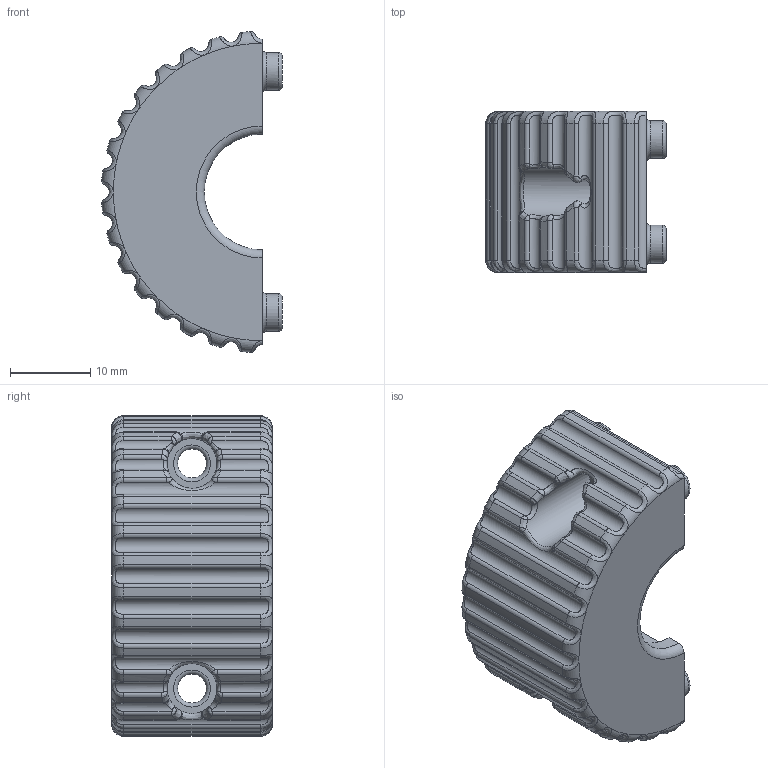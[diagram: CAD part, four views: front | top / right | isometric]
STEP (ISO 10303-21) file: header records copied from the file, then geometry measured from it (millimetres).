
FILE_DESCRIPTION(/* description */ (''),/* implementation_level */ '2;1');
FILE_NAME(/* name */ 'TRAYLOADER.104.stp',/* time_stamp */ '2025-05-12T17:12:15+02:00',/* author */ (''),/* organization */ (''),/* preprocessor_version */ 'ST-DEVELOPER v19.4',/* originating_system */ 'SIEMENS PLM Software NX2306.5001',/* authorisation */ '');
FILE_SCHEMA (('AP203_CONFIGURATION_CONTROLLED_3D_DESIGN_OF_MECHANICAL_PARTS_AND_ASSEMBLIES_MIM_LF { 1 0 10303 403 2 1 2}'));
Length unit declared in the file: millimetre
Products named in the file (1): TRAYLOADER.104_objects
Bounding box: 22.45 x 20 x 39.9 mm (x, y, z)
Volume: 9124.4 mm3; surface area: 3982.9 mm2
Topology: 1 solids, 1 shells, 241 faces, 551 edges, 316 vertices
Faces by surface type: cylinder 97, bspline 82, torus 46, plane 16
Full cylindrical faces by diameter (mm): 3.6 x2, 4.7 x4, 6.2 x2
Entity records: 12783 total; most frequent: CARTESIAN_POINT 7993, ORIENTED_EDGE 1050, DIRECTION 863, EDGE_CURVE 525, AXIS2_PLACEMENT_3D 374, VERTEX_POINT 310, EDGE_LOOP 269, ADVANCED_FACE 241
